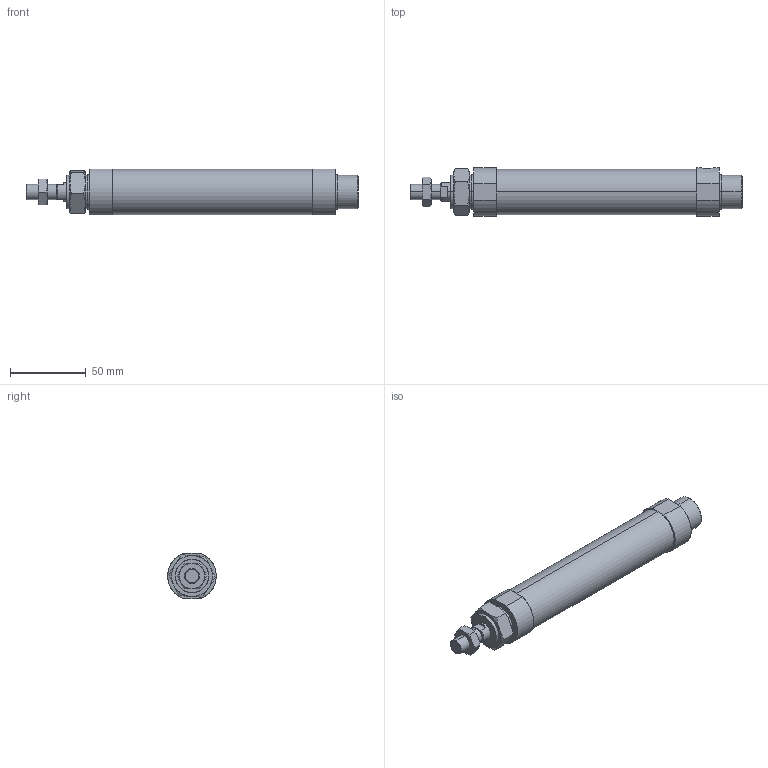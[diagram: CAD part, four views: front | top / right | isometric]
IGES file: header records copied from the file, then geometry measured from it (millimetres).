
Start section: SolidWorks IGES file using analytic representation for surfaces
Global section: file name: C:\Users\Toshiba\Desktop\J#1-25-50-N.IGS; native system: SolidWorks 2014; preprocessor: SolidWorks 2014; author: Toshiba; date: 160308.144954; units: millimetre
Bounding box: 219 x 32 x 30 mm (x, y, z)
Surface area: 23755.6 mm2 (no closed solid volume)
Topology: 0 solids, 0 shells, 93 faces, 1662 edges, 1660 vertices
Faces by surface type: bspline 61, revolution 32
